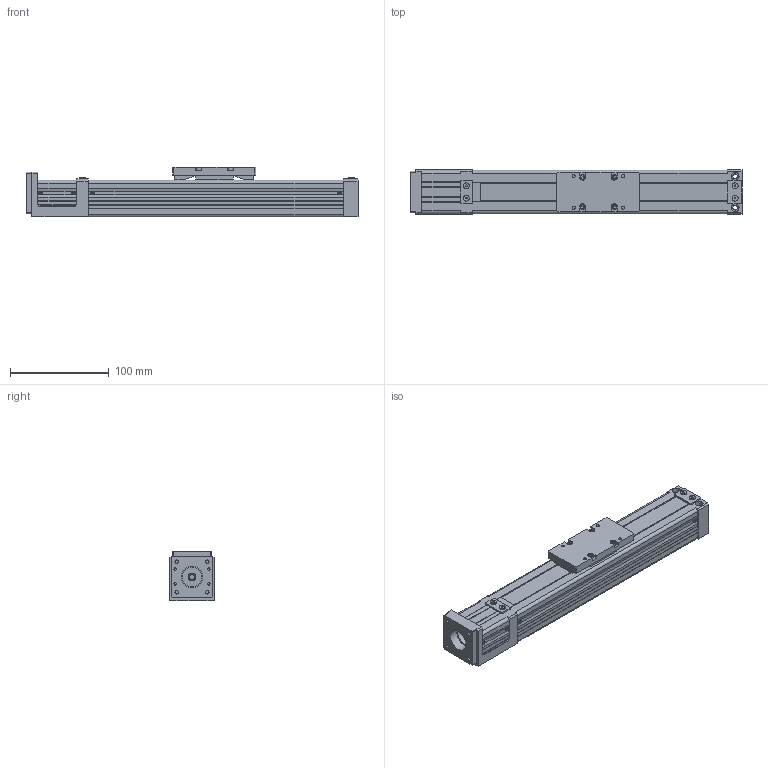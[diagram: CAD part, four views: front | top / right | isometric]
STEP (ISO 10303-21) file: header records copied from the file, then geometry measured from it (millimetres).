
FILE_DESCRIPTION((''),'2;1');
FILE_NAME('D:\製品 (図面)\カタログ用3D\SU部品\SU45×50\ダウンロード用\SU45×50-MB42\SU45×50-150-MB42.stp','2011-06-17T14:42:29',('Tsuchiya'),(''),'Autodesk Inventor 10','Autodesk Inventor 10','');
FILE_SCHEMA(('AUTOMOTIVE_DESIGN { 1 0 10303 214 1 1 1 1 }'));
Length unit declared in the file: millimetre
Products named in the file (3): SU45×50-150-MB42; SB45×50-150-MB42-1(1); SU45×50-T(1)
Assembly tree (2 placements, depth 2):
  SU45×50-150-MB42
    SB45×50-150-MB42-1(1)
    SU45×50-T(1)
Bounding box: 336 x 45 x 50 mm (x, y, z)
Volume: 249600.3 mm3; surface area: 140628 mm2
Topology: 2 solids, 2 shells, 672 faces, 1805 edges, 1188 vertices
Faces by surface type: plane 515, cylinder 79, bspline 47, torus 18, cone 13
Full cylindrical faces by diameter (mm): 2.459 x4, 3.242 x4, 3.4 x4, 4.5 x4, 5 x4, 6 x5, 7 x6, 8 x7, 10 x1, 20 x1, 22 x1, 30 x1
Entity records: 20721 total; most frequent: CARTESIAN_POINT 4502, ORIENTED_EDGE 3332, DIRECTION 3108, EDGE_CURVE 1666, VECTOR 1320, LINE 1320, VERTEX_POINT 1150, AXIS2_PLACEMENT_3D 894
